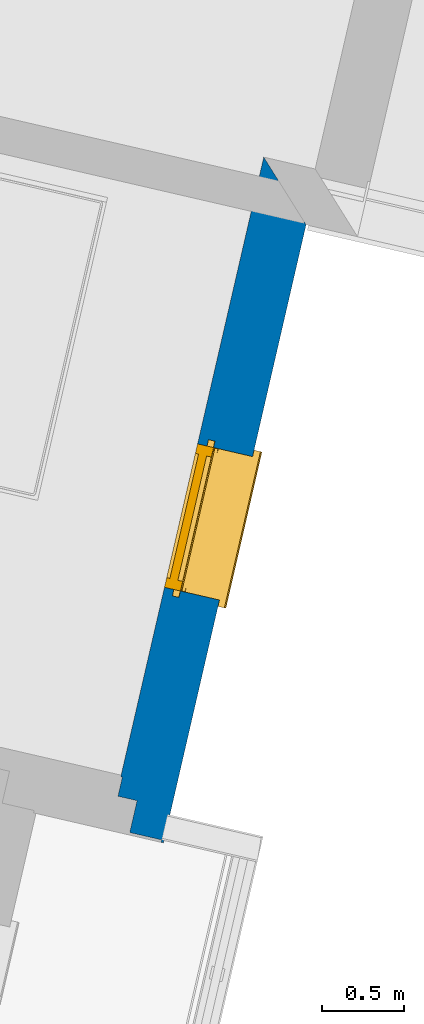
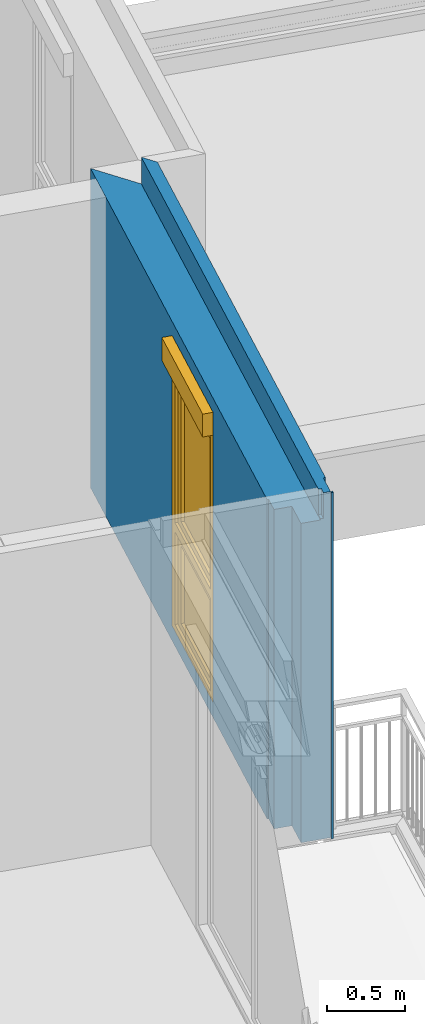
# One storey, part 21 of 90: 1 wall, 1 window, 1 opening.
"""IFC2X3 building model written with IfcOpenShell, lengths in metres."""

from ifc_helpers import new_model, entity, si_unit, converted_unit, derived_unit, money_unit, direction, frame, origin_with_axes, place, context, subcontext, project, spatial, open_shell, faceted_brep, surface_model, source, transform, mapped, material, material_list, type_object, element, fill, save


model = new_model("IFC2X3")

# Units and contexts
model_context = context("Model", 3, precision=1e-05, world=origin_with_axes(), true_north=direction((0.0, 1.0)))
body_context = subcontext(model_context, "Body", "Model", "MODEL_VIEW")
ifc_project = project(units=[si_unit("LENGTHUNIT", "METRE"), si_unit("AREAUNIT", "SQUARE_METRE"), si_unit("VOLUMEUNIT", "CUBIC_METRE"), converted_unit("PLANEANGLEUNIT", "DEGREE", entity("IfcPlaneAngleMeasure", 0.0174532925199), si_unit("PLANEANGLEUNIT", "RADIAN"), dimensions=[0, 0, 0, 0, 0, 0, 0]), si_unit("SOLIDANGLEUNIT", "STERADIAN"), money_unit("EUR"), converted_unit("TIMEUNIT", "Year", entity("IfcTimeMeasure", 31556926.0), si_unit("TIMEUNIT", "SECOND"), dimensions=[0, 0, 1, 0, 0, 0, 0]), si_unit("MASSUNIT", "GRAM", prefix="KILO"), si_unit("THERMODYNAMICTEMPERATUREUNIT", "DEGREE_CELSIUS"), si_unit("LUMINOUSINTENSITYUNIT", "LUMEN"), si_unit("ENERGYUNIT", "JOULE", prefix="MEGA"), derived_unit("THERMALCONDUCTANCEUNIT", [(si_unit("POWERUNIT", "WATT"), 1), (si_unit("LENGTHUNIT", "METRE"), -1), (si_unit("THERMODYNAMICTEMPERATUREUNIT", "KELVIN"), -1)]), derived_unit("SPECIFICHEATCAPACITYUNIT", [(si_unit("ENERGYUNIT", "JOULE"), 1), (si_unit("MASSUNIT", "GRAM", prefix="KILO"), -1), (si_unit("THERMODYNAMICTEMPERATUREUNIT", "KELVIN"), -1)]), derived_unit("MASSDENSITYUNIT", [(si_unit("MASSUNIT", "GRAM", prefix="KILO"), 1), (si_unit("VOLUMEUNIT", "CUBIC_METRE"), -1)])], contexts=[model_context])

# Site, building, storey
site_placement = place(None, origin_with_axes())
site = spatial("IfcSite", under=ifc_project, at=site_placement, Name="Site", CompositionType="ELEMENT")
building_placement = place(site_placement, origin_with_axes())
building = spatial("IfcBuilding", under=site, at=building_placement, Name="Bâtiment", CompositionType="ELEMENT")
storey_placement = place(building_placement, frame((0.0, 0.0, 2.72), z_axis=(0.0, 0.0, 1.0), x_axis=(1.0, 0.0, 0.0)))
storey = spatial("IfcBuildingStorey", under=building, at=storey_placement, Name="R+1", CompositionType="ELEMENT", Elevation=2.72)

# Wall, opening, window
ifc_material_1 = material(Name="Finition ext - Crépis")
ifc_material_2 = material(Name="Béton cellulaire")
ifc_material_3 = material(Name="Mortier")
ifc_material_4 = material(Name="Isolation - Polystyrène expansé")
ifc_material_5 = material(Name="Bloc ELITHERM")
ifc_material_6 = material(Name="Isolation - Polystyrène extrudé")
ifc_material_7 = material(Name="Finition int - Plaque de plâtre")
ifc_material_list = material_list([ifc_material_1, ifc_material_2, ifc_material_3, ifc_material_4, ifc_material_5, ifc_material_6, ifc_material_7])
wall_type = type_object("IfcWallType", Name="Mur ALKERN + planelle 21 345 x 2720", PredefinedType="USERDEFINED")
wall_placement = place(storey_placement, frame((-5.36567437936, -10.3303941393, 0.0), z_axis=(0.0, 0.0, 1.0), x_axis=(-0.224876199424, -0.974387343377, 0.0)))
wall = element("IfcWall", 1, at=wall_placement, inside=storey, type_object=wall_type, material=ifc_material_list, Name="Mue bloc ALKERN isolé", ObjectType="SOLIDWALL", context=body_context, shape_type="Brep", body=[
    faceted_brep([(1.4538266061, -0.0149999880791, 0.12), (1.4538266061, -7.00355284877e-09, 0.12), (1.4538266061, -7.00355329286e-09, 2.22), (1.4538266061, -0.0149999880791, 2.22), (1.4538266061, -7.00355284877e-09, 0.06), (1.4538266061, -0.0149999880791, 0.06), (3.86232660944, 0.0, 0.0), (3.85234608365, -7.00355329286e-09, 0.0106237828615), (3.71230713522, -7.00355329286e-09, 0.0193762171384), (3.70232660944, -7.00355284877e-09, 0.01), (3.70232660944, -3.16101367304e-10, 0.0), (-7.00355506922e-09, -7.00355240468e-09, 0.0), (-7.00355506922e-09, -7.00355240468e-09, 2.72), (3.70232660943, -3.16100923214e-10, 2.72), (3.70232660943, -7.00355329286e-09, 2.51999999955), (3.70232660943, -7.00355329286e-09, 2.50999999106), (3.70232660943, -7.00355329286e-09, 2.50872065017), (3.70232660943, -7.00355329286e-09, 2.5), (3.71732660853, -7.00355284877e-09, 2.5), (3.73706759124, -7.00355284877e-09, 2.5), (3.86232660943, -7.00355240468e-09, 2.5), (3.86232660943, -7.00355240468e-09, 2.50872065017), (3.86232660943, -7.00355240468e-09, 2.50999999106), (3.86232660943, -7.00355240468e-09, 2.51999999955), (3.86232660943, 0.0, 2.72), (3.87732660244, 0.0, 2.72), (3.87732660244, 0.0, 0.0), (2.3538266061, -7.00355284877e-09, 0.06), (2.3538266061, -7.00355284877e-09, 0.12), (2.3538266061, -7.00355329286e-09, 2.22), (2.3538266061, -0.0149999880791, 2.22), (3.86232660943, -0.0149999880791, 2.50872065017), (3.86232660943, -0.0149999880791, 2.5), (3.73706759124, -0.0149999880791, 2.5), (3.71732660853, -0.0149999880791, 2.5), (3.70232660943, -0.0149999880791, 2.5), (3.70232660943, -0.0149999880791, 2.50872065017), (3.70232660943, -0.0149999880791, 2.50999999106), (3.70232660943, -0.0149999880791, 2.51999999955), (3.70232660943, -0.0149999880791, 2.72), (-0.0149999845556, -0.0149999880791, 2.72), (-0.0149999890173, -0.0149999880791, 0.0), (3.70232660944, -0.01499998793, 0.0), (3.70232660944, -0.01499998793, 0.01), (3.71230713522, -0.0149999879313, 0.0193762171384), (3.85234608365, -0.0149999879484, 0.0106237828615), (3.86232660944, -0.0149999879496, 0.0), (3.87732660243, -0.0149999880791, 0.0), (3.87732660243, -0.0149999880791, 2.72), (3.86232660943, -0.0149999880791, 2.72), (3.86232660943, -0.0149999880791, 2.51999999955), (3.86232660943, -0.0149999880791, 2.50999999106), (2.3538266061, -0.0149999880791, 0.12), (2.3538266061, -0.0149999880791, 0.06)], [[[0, 1, 2, 3]], [[4, 1, 0, 5]], [[6, 7, 8, 9, 10, 11, 12, 13, 14, 15, 16, 17, 18, 19, 20, 21, 22, 23, 24, 25, 26], [27, 28, 29, 2, 1, 4]], [[29, 30, 3, 2]], [[31, 32, 33, 34, 35, 36, 37, 38, 39, 40, 41, 42, 43, 44, 45, 46, 47, 48, 49, 50, 51], [5, 0, 3, 30, 52, 53]], [[27, 4, 5, 53]], [[6, 46, 45, 7]], [[7, 45, 44, 8]], [[8, 44, 43, 9]], [[9, 43, 42, 10]], [[42, 41, 11, 10]], [[40, 12, 11, 41]], [[13, 12, 40, 39]], [[13, 39, 38, 14]], [[38, 37, 15, 14]], [[37, 36, 16, 15]], [[36, 35, 17, 16]], [[18, 17, 35, 34]], [[19, 18, 34, 33]], [[19, 33, 32, 20]], [[21, 20, 32, 31]], [[22, 21, 31, 51]], [[23, 22, 51, 50]], [[24, 23, 50, 49]], [[49, 48, 25, 24]], [[26, 25, 48, 47]], [[6, 26, 47, 46]], [[52, 28, 27, 53]], [[28, 52, 30, 29]]]),
    faceted_brep([(3.86232662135, -0.0629999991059, 2.71999999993), (3.86232662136, -0.015, 2.71999999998), (-0.0149999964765, -0.015, 2.72), (-0.0629999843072, -0.0629999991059, 2.72), (3.86232662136, -0.015, 2.51999999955), (3.86232662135, -0.0629999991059, 2.51999999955), (-0.0150000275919, -0.015, 2.52000002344), (-0.0630000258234, -0.0629999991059, 2.52000002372)], [[[0, 1, 2, 3]], [[4, 1, 0, 5]], [[1, 4, 6, 2]], [[7, 3, 2, 6]], [[5, 0, 3, 7]], [[4, 5, 7, 6]]]),
    faceted_brep([(3.86232662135, -0.0829999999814, 2.51999999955), (3.86232662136, -0.015, 2.51999999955), (-0.0150000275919, -0.015, 2.52000002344), (-0.0829999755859, -0.0829999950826, 2.52000002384), (3.86232662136, -0.015, 2.50999999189), (3.86232662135, -0.0829999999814, 2.50999999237), (-0.0150000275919, -0.015, 2.51000000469), (-0.0830000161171, -0.0829999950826, 2.51000000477)], [[[0, 1, 2, 3]], [[4, 1, 0, 5]], [[1, 4, 6, 2]], [[7, 3, 2, 6]], [[5, 0, 3, 7]], [[4, 5, 7, 6]]]),
    faceted_brep([(-0.0829999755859, -0.0829999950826, 2.72), (3.81432661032, -0.0830000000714, 2.7199999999), (3.81432661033, -0.0630000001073, 2.71999999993), (-0.0629999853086, -0.0630000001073, 2.72), (-0.0829999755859, -0.0829999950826, 2.52000002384), (3.81432661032, -0.0830000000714, 2.51999999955), (3.81432661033, -0.0630000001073, 2.51999999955), (-0.0630000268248, -0.0630000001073, 2.52000002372)], [[[0, 1, 2, 3]], [[4, 5, 1, 0]], [[5, 6, 2, 1]], [[3, 2, 6, 7]], [[7, 4, 0, 3]], [[7, 6, 5, 4]]]),
    faceted_brep([(1.4538266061, -0.214999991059, 0.12), (1.4538266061, -0.214999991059, 0.06), (1.4538266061, -0.015, 0.06), (1.4538266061, -0.015, 0.12), (1.4538266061, -0.015, 2.22), (1.4538266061, -0.214999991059, 2.22), (-0.215000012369, -0.214999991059, 2.51000000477), (-0.215000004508, -0.214999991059, 0.0), (3.86232662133, -0.214999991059, 0.0), (3.86232662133, -0.214999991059, 2.50999999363), (2.3538266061, -0.214999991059, 2.22), (2.3538266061, -0.214999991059, 0.12), (2.3538266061, -0.214999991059, 0.06), (2.3538266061, -0.015, 0.06), (-0.0150000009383, -0.015, 0.0), (-0.0150000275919, -0.015, 2.51000000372), (3.86232662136, -0.015, 2.50999999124), (3.86232662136, -0.015, 0.0), (2.3538266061, -0.015, 0.12), (2.3538266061, -0.015, 2.22), (-0.0830000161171, -0.0829999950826, 2.51000000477), (3.86232662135, -0.0829999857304, 2.50999999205)], [[[0, 1, 2, 3, 4, 5]], [[6, 7, 8, 9], [1, 0, 5, 10, 11, 12]], [[13, 2, 1, 12]], [[14, 15, 16, 17], [13, 18, 19, 4, 3, 2]], [[19, 10, 5, 4]], [[7, 6, 20, 15, 14]], [[7, 14, 17, 8]], [[8, 17, 16, 21, 9]], [[20, 6, 9, 21]], [[18, 13, 12, 11, 10, 19]], [[15, 20, 21, 16]]]),
    faceted_brep([(1.4538266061, -0.286, 0.12), (1.4538266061, -0.286, 0.06), (1.4538266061, -0.215000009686, 0.06), (1.4538266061, -0.215000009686, 0.12), (1.4538266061, -0.215, 2.22), (1.4538266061, -0.215, 2.4), (1.4538266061, -0.335000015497, 2.4), (1.4538266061, -0.335000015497, 2.22), (1.4538266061, -0.335000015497, 0.12), (2.3538266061, -0.286, 0.12), (2.3538266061, -0.286, 0.06), (2.3538266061, -0.215000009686, 0.06), (-0.215000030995, -0.215000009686, 2.51000000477), (3.66232661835, -0.215000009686, 2.50999999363), (3.66232661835, -0.215000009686, 0.0), (-0.215000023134, -0.215000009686, 0.0), (2.3538266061, -0.215000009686, 0.12), (2.3538266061, -0.215, 2.22), (2.3538266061, -0.215, 2.4), (2.3538266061, -0.335000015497, 2.4), (-0.335000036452, -0.335000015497, 0.0), (3.66232661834, -0.335000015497, 0.0), (3.66232661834, -0.335000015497, 2.50999999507), (-0.335000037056, -0.335000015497, 2.51000000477), (2.3538266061, -0.335000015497, 2.22), (2.3538266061, -0.335000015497, 0.12)], [[[0, 1, 2, 3, 4, 5, 6, 7, 8]], [[0, 9, 10, 1]], [[11, 2, 1, 10]], [[12, 13, 14, 15], [11, 16, 17, 18, 5, 4, 3, 2]], [[18, 19, 6, 5]], [[20, 21, 22, 23], [8, 7, 6, 19, 24, 25]], [[9, 0, 8, 25]], [[16, 11, 10, 9, 25, 24, 19, 18, 17]], [[23, 22, 13, 12]], [[21, 14, 13, 22]], [[15, 14, 21, 20]], [[15, 20, 23, 12]]]),
    faceted_brep([(3.5423265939, -0.335000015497, 0.0), (-0.335000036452, -0.335000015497, 0.0), (-0.335000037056, -0.335000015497, 2.51000000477), (3.5423265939, -0.335000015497, 2.5100000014), (2.3538266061, -0.335000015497, 2.22), (2.3538266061, -0.335000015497, 2.4), (1.4538266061, -0.335000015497, 2.4), (1.4538266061, -0.335000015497, 2.22), (1.4538266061, -0.335000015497, 0.12), (2.3538266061, -0.335000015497, 0.12), (3.5423265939, -0.344999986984, 0.0), (-0.344999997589, -0.344999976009, 0.0), (-0.344999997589, -0.344999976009, 2.51000000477), (3.5423265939, -0.344999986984, 2.51000000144), (2.3538266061, -0.344999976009, 2.22), (2.3538266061, -0.344999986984, 2.4), (2.3538266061, -0.344999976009, 0.12), (1.4538266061, -0.344999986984, 2.4), (1.4538266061, -0.344999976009, 2.22), (1.4538266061, -0.344999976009, 0.12)], [[[0, 1, 2, 3], [4, 5, 6, 7, 8, 9]], [[10, 11, 1, 0]], [[12, 2, 1, 11]], [[3, 2, 12, 13]], [[3, 13, 10, 0]], [[14, 15, 5, 4, 9, 16]], [[6, 5, 15, 17]], [[7, 6, 17, 18, 19, 8]], [[8, 19, 16, 9]], [[13, 12, 11, 10], [15, 14, 16, 19, 18, 17]]]),
])
opening_placement = place(wall_placement, frame((1.9038266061, 0.0, 0.12), z_axis=(0.0, 0.0, 1.0), x_axis=(1.0, 0.0, 0.0)))
opening = element("IfcOpeningElement", 2, at=opening_placement, cuts=wall, Name="MEN 63", context=body_context, shape_type="Brep", body=[
    faceted_brep([(-0.45, -0.245, 0.0), (0.45, -0.245, 0.0), (0.45, -0.83499998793, 0.0), (-0.45, -0.83499998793, 0.0), (-0.45, -0.245, 2.1), (0.45, -0.245, 2.1), (0.45, -0.83499998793, 2.1), (-0.45, -0.83499998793, 2.1)], [[[0, 1, 2, 3]], [[0, 4, 5, 1]], [[1, 5, 6, 2]], [[3, 2, 6, 7]], [[4, 0, 3, 7]], [[5, 4, 7, 6]]]),
    faceted_brep([(-0.45, -0.245, 0.0), (-0.45, -0.245, 2.1), (-0.45, 0.34499998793, 2.1), (-0.45, 0.34499998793, 0.0), (0.45, -0.245, 0.0), (0.45, -0.245, 2.1), (0.45, 0.34499998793, 2.1), (0.45, 0.34499998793, 0.0)], [[[0, 1, 2, 3]], [[0, 4, 5, 1]], [[1, 5, 6, 2]], [[3, 2, 6, 7]], [[4, 0, 3, 7]], [[5, 4, 7, 6]]]),
    faceted_brep([(-0.45, -0.245, 0.0), (-0.45, -0.245, 2.1), (-0.45, 0.34499998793, 2.1), (-0.45, 0.34499998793, 0.0), (0.45, -0.245, 0.0), (0.45, -0.245, 2.1), (0.45, 0.34499998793, 2.1), (0.45, 0.34499998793, 0.0)], [[[0, 1, 2, 3]], [[0, 4, 5, 1]], [[1, 5, 6, 2]], [[3, 2, 6, 7]], [[4, 0, 3, 7]], [[5, 4, 7, 6]]]),
    faceted_brep([(-0.45, -0.215, 2.1), (0.45, -0.215, 2.1), (0.45, -0.80499998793, 2.1), (-0.45, -0.80499998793, 2.1), (-0.45, -0.215, 2.28), (0.45, -0.215, 2.28), (0.45, -0.80499998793, 2.28), (-0.45, -0.80499998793, 2.28)], [[[0, 1, 2, 3]], [[0, 4, 5, 1]], [[1, 5, 6, 2]], [[3, 2, 6, 7]], [[4, 0, 3, 7]], [[5, 4, 7, 6]]]),
    faceted_brep([(-0.45, -0.286, 0.0), (0.45, -0.286, 0.0), (0.45, 0.30399998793, 0.0), (-0.45, 0.30399998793, 0.0), (-0.45, -0.286, -0.06), (0.45, -0.286, -0.06), (0.45, 0.30399998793, -0.06), (-0.45, 0.30399998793, -0.06)], [[[0, 1, 2, 3]], [[0, 4, 5, 1]], [[1, 5, 6, 2]], [[3, 2, 6, 7]], [[4, 0, 3, 7]], [[5, 4, 7, 6]]]),
])
window_style = type_object("IfcWindowStyle", Name="Baie générique 2017 v2", ConstructionType="NOTDEFINED", OperationType="NOTDEFINED", ParameterTakesPrecedence=False, Sizeable=False)
shared_shape = source(origin_with_axes(), body_context, "Body", "SurfaceModel", [
    faceted_brep([(0.45, 0.0, 2.1), (-0.45, 0.0, 2.1), (-0.45, 0.0, 0.0), (0.45, 0.0, 0.0), (-0.39, 0.0, 0.85), (-0.39, 0.0, 2.05), (0.39, 0.0, 2.05), (0.39, 0.0, 0.85), (-0.39, 0.0, 0.78), (0.39, 0.0, 0.78), (0.39, 0.0, 0.05), (-0.39, 0.0, 0.05), (0.45, 0.1, 2.1), (-0.45, 0.1, 2.1), (-0.45, 0.1, 0.0), (0.45, 0.1, 0.0), (-0.39, 0.1, 0.85), (-0.39, 0.1, 2.05), (0.39, 0.1, 2.05), (0.39, 0.1, 0.85), (-0.39, 0.1, 0.78), (0.39, 0.1, 0.78), (0.39, 0.1, 0.05), (-0.39, 0.1, 0.05)], [[[0, 1, 2, 3], [4, 5, 6, 7], [8, 9, 10, 11]], [[1, 0, 12, 13]], [[2, 1, 13, 14]], [[3, 2, 14, 15]], [[0, 3, 15, 12]], [[16, 17, 5, 4]], [[6, 5, 17, 18]], [[7, 6, 18, 19]], [[4, 7, 19, 16]], [[20, 21, 9, 8]], [[21, 22, 10, 9]], [[11, 10, 22, 23]], [[8, 11, 23, 20]], [[14, 13, 12, 15], [16, 19, 18, 17], [20, 23, 22, 21]]]),
    faceted_brep([(-0.39, 0.08, 2.05), (0.39, 0.08, 2.05), (0.39, 0.08, 0.85), (-0.39, 0.08, 0.85), (-0.32, 0.08, 1.98), (-0.32, 0.08, 0.9), (0.32, 0.08, 0.9), (0.32, 0.08, 1.98), (-0.39, 0.03, 2.05), (0.39, 0.03, 2.05), (0.39, 0.03, 0.85), (-0.39, 0.03, 0.85), (-0.32, 0.03, 1.98), (-0.32, 0.03, 0.9), (0.32, 0.03, 0.9), (0.32, 0.03, 1.98)], [[[0, 1, 2, 3], [4, 5, 6, 7]], [[0, 8, 9, 1]], [[9, 10, 2, 1]], [[10, 11, 3, 2]], [[3, 11, 8, 0]], [[4, 12, 13, 5]], [[13, 14, 6, 5]], [[14, 15, 7, 6]], [[7, 15, 12, 4]], [[9, 8, 11, 10], [13, 12, 15, 14]]]),
    surface_model("IfcShellBasedSurfaceModel", [(0.39, 0.08, 0.85), (0.39, 0.08, 2.05), (0.39, 0.055, 2.05), (0.39, 0.055, 0.85)], [open_shell([[[0, 1, 2, 3]]])]),
    surface_model("IfcShellBasedSurfaceModel", [(-0.39, 0.08, 0.85), (-0.39, 0.08, 2.05), (-0.39, 0.055, 2.05), (-0.39, 0.055, 0.85)], [open_shell([[[0, 1, 2, 3]]])]),
    surface_model("IfcShellBasedSurfaceModel", [(0.39, 0.08, 0.85), (-0.39, 0.08, 0.85), (-0.39, 0.055, 0.85), (0.39, 0.055, 0.85)], [open_shell([[[0, 1, 2, 3]]])]),
    surface_model("IfcShellBasedSurfaceModel", [(0.39, 0.08, 2.05), (-0.39, 0.08, 2.05), (-0.39, 0.055, 2.05), (0.39, 0.055, 2.05)], [open_shell([[[0, 1, 2, 3]]])]),
    surface_model("IfcShellBasedSurfaceModel", [(0.39, 0.055, 0.85), (0.39, 0.055, 2.05), (0.39, 0.03, 2.05), (0.39, 0.03, 0.85)], [open_shell([[[0, 1, 2, 3]]])]),
    surface_model("IfcShellBasedSurfaceModel", [(-0.39, 0.055, 0.85), (-0.39, 0.055, 2.05), (-0.39, 0.03, 2.05), (-0.39, 0.03, 0.85)], [open_shell([[[0, 1, 2, 3]]])]),
    surface_model("IfcShellBasedSurfaceModel", [(0.39, 0.055, 0.85), (-0.39, 0.055, 0.85), (-0.39, 0.03, 0.85), (0.39, 0.03, 0.85)], [open_shell([[[0, 1, 2, 3]]])]),
    surface_model("IfcShellBasedSurfaceModel", [(0.39, 0.055, 2.05), (-0.39, 0.055, 2.05), (-0.39, 0.03, 2.05), (0.39, 0.03, 2.05)], [open_shell([[[0, 1, 2, 3]]])]),
    faceted_brep([(0.32, 0.0575, 0.9), (0.32, 0.0525, 0.9), (-0.32, 0.0525, 0.9), (-0.32, 0.0575, 0.9), (0.32, 0.0575, 1.98), (0.32, 0.0525, 1.98), (-0.32, 0.0525, 1.98), (-0.32, 0.0575, 1.98)], [[[0, 1, 2, 3]], [[4, 5, 1, 0]], [[1, 5, 6, 2]], [[3, 2, 6, 7]], [[0, 3, 7, 4]], [[7, 6, 5, 4]]]),
    faceted_brep([(-0.39, 0.08, 0.78), (0.39, 0.08, 0.78), (0.39, 0.08, 0.05), (-0.39, 0.08, 0.05), (-0.32, 0.08, 0.71), (-0.32, 0.08, 0.1), (0.32, 0.08, 0.1), (0.32, 0.08, 0.71), (-0.39, 0.03, 0.78), (0.39, 0.03, 0.78), (0.39, 0.03, 0.05), (-0.39, 0.03, 0.05), (-0.32, 0.03, 0.71), (-0.32, 0.03, 0.1), (0.32, 0.03, 0.1), (0.32, 0.03, 0.71)], [[[0, 1, 2, 3], [4, 5, 6, 7]], [[0, 8, 9, 1]], [[9, 10, 2, 1]], [[10, 11, 3, 2]], [[3, 11, 8, 0]], [[4, 12, 13, 5]], [[13, 14, 6, 5]], [[14, 15, 7, 6]], [[7, 15, 12, 4]], [[9, 8, 11, 10], [13, 12, 15, 14]]]),
    surface_model("IfcShellBasedSurfaceModel", [(0.39, 0.08, 0.05), (0.39, 0.08, 0.78), (0.39, 0.055, 0.78), (0.39, 0.055, 0.05)], [open_shell([[[0, 1, 2, 3]]])]),
    surface_model("IfcShellBasedSurfaceModel", [(-0.39, 0.08, 0.05), (-0.39, 0.08, 0.78), (-0.39, 0.055, 0.78), (-0.39, 0.055, 0.05)], [open_shell([[[0, 1, 2, 3]]])]),
    surface_model("IfcShellBasedSurfaceModel", [(0.39, 0.08, 0.05), (-0.39, 0.08, 0.05), (-0.39, 0.055, 0.05), (0.39, 0.055, 0.05)], [open_shell([[[0, 1, 2, 3]]])]),
    surface_model("IfcShellBasedSurfaceModel", [(0.39, 0.08, 0.78), (-0.39, 0.08, 0.78), (-0.39, 0.055, 0.78), (0.39, 0.055, 0.78)], [open_shell([[[0, 1, 2, 3]]])]),
    surface_model("IfcShellBasedSurfaceModel", [(0.39, 0.055, 0.05), (0.39, 0.055, 0.78), (0.39, 0.03, 0.78), (0.39, 0.03, 0.05)], [open_shell([[[0, 1, 2, 3]]])]),
    surface_model("IfcShellBasedSurfaceModel", [(-0.39, 0.055, 0.05), (-0.39, 0.055, 0.78), (-0.39, 0.03, 0.78), (-0.39, 0.03, 0.05)], [open_shell([[[0, 1, 2, 3]]])]),
    surface_model("IfcShellBasedSurfaceModel", [(0.39, 0.055, 0.05), (-0.39, 0.055, 0.05), (-0.39, 0.03, 0.05), (0.39, 0.03, 0.05)], [open_shell([[[0, 1, 2, 3]]])]),
    surface_model("IfcShellBasedSurfaceModel", [(0.39, 0.055, 0.78), (-0.39, 0.055, 0.78), (-0.39, 0.03, 0.78), (0.39, 0.03, 0.78)], [open_shell([[[0, 1, 2, 3]]])]),
    faceted_brep([(0.32, 0.0575, 0.1), (0.32, 0.0525, 0.1), (-0.32, 0.0525, 0.1), (-0.32, 0.0575, 0.1), (0.32, 0.0575, 0.71), (0.32, 0.0525, 0.71), (-0.32, 0.0525, 0.71), (-0.32, 0.0575, 0.71)], [[[0, 1, 2, 3]], [[4, 5, 1, 0]], [[1, 5, 6, 2]], [[3, 2, 6, 7]], [[0, 3, 7, 4]], [[7, 6, 5, 4]]]),
    faceted_brep([(0.45, -0.03, 0.0), (0.45, -0.03, 2.1), (0.425, -0.03, 2.1), (0.425, -0.03, 0.0), (0.45, -0.002, 0.0), (0.45, -0.002, 2.1), (0.425, -0.002, 2.1), (0.425, -0.004, 2.1), (0.448, -0.004, 2.1), (0.448, -0.028, 2.1), (0.425, -0.028, 2.1), (0.425, -0.028, 0.0), (0.448, -0.028, 0.0), (0.448, -0.004, 0.0), (0.425, -0.004, 0.0), (0.425, -0.002, 0.0)], [[[0, 1, 2, 3]], [[4, 5, 1, 0]], [[1, 5, 6, 7, 8, 9, 10, 2]], [[3, 2, 10, 11]], [[0, 3, 11, 12, 13, 14, 15, 4]], [[15, 6, 5, 4]], [[14, 7, 6, 15]], [[13, 8, 7, 14]], [[12, 9, 8, 13]], [[11, 10, 9, 12]]]),
    faceted_brep([(-0.45, -0.03, 0.0), (-0.425, -0.03, 0.0), (-0.425, -0.03, 2.1), (-0.45, -0.03, 2.1), (-0.45, -0.002, 0.0), (-0.425, -0.002, 0.0), (-0.425, -0.004, 0.0), (-0.448, -0.004, 0.0), (-0.448, -0.028, 0.0), (-0.425, -0.028, 0.0), (-0.425, -0.028, 2.1), (-0.448, -0.028, 2.1), (-0.448, -0.004, 2.1), (-0.425, -0.004, 2.1), (-0.425, -0.002, 2.1), (-0.45, -0.002, 2.1)], [[[0, 1, 2, 3]], [[0, 4, 5, 6, 7, 8, 9, 1]], [[1, 9, 10, 2]], [[3, 2, 10, 11, 12, 13, 14, 15]], [[4, 0, 3, 15]], [[5, 4, 15, 14]], [[6, 5, 14, 13]], [[7, 6, 13, 12]], [[8, 7, 12, 11]], [[9, 8, 11, 10]]]),
    faceted_brep([(-0.448, -0.028, 2.1), (-0.448, -0.028, 2.278), (0.448, -0.028, 2.278), (0.448, -0.028, 2.1), (-0.448, -0.03, 2.1), (-0.448, -0.03, 2.28), (-0.448, 0.17, 2.28), (-0.448, 0.17, 2.1), (-0.448, 0.168, 2.1), (-0.448, 0.168, 2.278), (0.448, 0.168, 2.278), (0.448, 0.168, 2.1), (0.448, 0.17, 2.1), (0.448, 0.17, 2.28), (0.448, -0.03, 2.28), (0.448, -0.03, 2.1)], [[[0, 1, 2, 3]], [[0, 4, 5, 6, 7, 8, 9, 1]], [[1, 9, 10, 2]], [[3, 2, 10, 11, 12, 13, 14, 15]], [[4, 0, 3, 15]], [[5, 4, 15, 14]], [[6, 5, 14, 13]], [[7, 6, 13, 12]], [[8, 7, 12, 11]], [[9, 8, 11, 10]]]),
    faceted_brep([(-0.448, 0.0724697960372, 2.17436337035), (-0.448, 0.0555495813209, 2.17050144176), (-0.448, 0.041980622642, 2.18132232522), (-0.448, 0.041980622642, 2.19867767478), (-0.448, 0.0555495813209, 2.20949855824), (-0.448, 0.0724697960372, 2.20563662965), (-0.448, 0.08, 2.19), (0.448, 0.0724697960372, 2.17436337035), (0.448, 0.0555495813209, 2.17050144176), (0.448, 0.041980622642, 2.18132232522), (0.448, 0.041980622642, 2.19867767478), (0.448, 0.0555495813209, 2.20949855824), (0.448, 0.0724697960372, 2.20563662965), (0.448, 0.08, 2.19)], [[[0, 1, 2, 3, 4, 5, 6]], [[1, 0, 7, 8]], [[2, 1, 8, 9]], [[3, 2, 9, 10]], [[4, 3, 10, 11]], [[5, 4, 11, 12]], [[6, 5, 12, 13]], [[0, 6, 13, 7]], [[7, 13, 12, 11, 10, 9, 8]]]),
    faceted_brep([(-0.438, 0.130275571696, 2.15615706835), (-0.438, 0.108632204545, 2.12901714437), (-0.438, 0.0773566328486, 2.11395562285), (-0.438, 0.0426433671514, 2.11395562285), (-0.438, 0.011367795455, 2.12901714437), (-0.438, -0.0102755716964, 2.15615706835), (-0.438, -0.018, 2.19), (-0.438, -0.0102755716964, 2.22384293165), (-0.438, 0.011367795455, 2.25098285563), (-0.438, 0.0426433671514, 2.26604437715), (-0.438, 0.0773566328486, 2.26604437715), (-0.438, 0.108632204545, 2.25098285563), (-0.438, 0.130275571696, 2.22384293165), (-0.438, 0.138, 2.19), (0.438, 0.130275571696, 2.15615706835), (0.438, 0.108632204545, 2.12901714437), (0.438, 0.0773566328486, 2.11395562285), (0.438, 0.0426433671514, 2.11395562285), (0.438, 0.011367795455, 2.12901714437), (0.438, -0.0102755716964, 2.15615706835), (0.438, -0.018, 2.19), (0.438, -0.0102755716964, 2.22384293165), (0.438, 0.011367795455, 2.25098285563), (0.438, 0.0426433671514, 2.26604437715), (0.438, 0.0773566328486, 2.26604437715), (0.438, 0.108632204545, 2.25098285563), (0.438, 0.130275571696, 2.22384293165), (0.438, 0.138, 2.19)], [[[0, 1, 2, 3, 4, 5, 6, 7, 8, 9, 10, 11, 12, 13]], [[1, 0, 14, 15]], [[2, 1, 15, 16]], [[3, 2, 16, 17]], [[4, 3, 17, 18]], [[5, 4, 18, 19]], [[6, 5, 19, 20]], [[7, 6, 20, 21]], [[8, 7, 21, 22]], [[9, 8, 22, 23]], [[10, 9, 23, 24]], [[11, 10, 24, 25]], [[12, 11, 25, 26]], [[13, 12, 26, 27]], [[0, 13, 27, 14]], [[14, 27, 26, 25, 24, 23, 22, 21, 20, 19, 18, 17, 16, 15]]]),
    faceted_brep([(-0.45, 0.17, 2.1), (-0.45, 0.17, 2.28), (-0.448, 0.17, 2.28), (-0.448, 0.17, 2.1), (-0.45, -0.03, 2.1), (-0.45, -0.03, 2.28), (-0.448, -0.03, 2.28), (-0.448, -0.03, 2.1)], [[[0, 1, 2, 3]], [[0, 4, 5, 1]], [[1, 5, 6, 2]], [[3, 2, 6, 7]], [[4, 0, 3, 7]], [[5, 4, 7, 6]]]),
    faceted_brep([(0.448, 0.17, 2.1), (0.448, 0.17, 2.28), (0.45, 0.17, 2.28), (0.45, 0.17, 2.1), (0.448, -0.03, 2.1), (0.448, -0.03, 2.28), (0.45, -0.03, 2.28), (0.45, -0.03, 2.1)], [[[0, 1, 2, 3]], [[0, 4, 5, 1]], [[1, 5, 6, 2]], [[3, 2, 6, 7]], [[4, 0, 3, 7]], [[5, 4, 7, 6]]]),
    faceted_brep([(-0.448, -0.004, 2.1), (-0.448, 0.168, 2.1), (0.448, 0.168, 2.1), (0.448, -0.004, 2.1), (-0.448, -0.004, 2.102), (-0.448, 0.168, 2.102), (0.448, 0.168, 2.102), (0.448, -0.004, 2.102)], [[[0, 1, 2, 3]], [[0, 4, 5, 1]], [[1, 5, 6, 2]], [[3, 2, 6, 7]], [[4, 0, 3, 7]], [[5, 4, 7, 6]]]),
    faceted_brep([(-0.438, -0.006, 2.1), (-0.438, -0.006, 2.19), (0.438, -0.006, 2.19), (0.438, -0.006, 2.1), (-0.438, -0.026, 2.1), (-0.438, -0.026, 2.19), (0.438, -0.026, 2.19), (0.438, -0.026, 2.1)], [[[0, 1, 2, 3]], [[1, 0, 4, 5]], [[2, 1, 5, 6]], [[3, 2, 6, 7]], [[4, 0, 3, 7]], [[5, 4, 7, 6]]]),
    faceted_brep([(-0.45, -0.00167949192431, -0.01), (0.45, -0.00167949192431, -0.01), (0.45, 0.0, -0.00373205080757), (0.49, 0.0, -0.00373205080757), (0.49, 0.001, 0.0), (-0.49, 0.001, 0.0), (-0.49, 0.0, -0.00373205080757), (-0.45, 0.0, -0.00373205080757), (-0.45, -0.009, -0.0173205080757), (0.45, -0.009, -0.0173205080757), (0.45, -0.245, -0.02), (0.45, -0.245, -0.06), (0.45, 0.0, -0.06), (0.45, -0.019, -0.02), (0.49, 0.0, -0.06), (0.49, 0.041, -0.06), (0.49, 0.041, 0.0), (-0.49, 0.041, 0.0), (-0.49, 0.041, -0.06), (-0.49, 0.0, -0.06), (-0.45, 0.0, -0.06), (-0.45, -0.245, -0.06), (-0.45, -0.245, -0.02), (-0.45, -0.019, -0.02), (0.49, -0.245, -0.02), (0.49, -0.245, -0.06), (0.49, -0.275, -0.06), (-0.49, -0.275, -0.06), (-0.49, -0.245, -0.06), (-0.49, -0.245, -0.02), (-0.49, -0.285, -0.02), (0.49, -0.285, -0.02), (0.49, -0.295, -0.03), (0.49, -0.295, -0.06), (0.49, -0.285, -0.06), (0.49, -0.285, -0.05), (0.49, -0.275, -0.05), (0.49, -0.292071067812, -0.0229289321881), (-0.49, -0.275, -0.05), (-0.49, -0.285, -0.05), (-0.49, -0.285, -0.06), (-0.49, -0.295, -0.06), (-0.49, -0.295, -0.03), (-0.49, -0.292071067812, -0.0229289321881)], [[[0, 1, 2, 3, 4, 5, 6, 7]], [[8, 9, 1, 0]], [[10, 11, 12, 2, 1, 9, 13]], [[3, 2, 12, 14]], [[4, 3, 14, 15, 16]], [[16, 17, 5, 4]], [[6, 5, 17, 18, 19]], [[19, 20, 7, 6]], [[7, 20, 21, 22, 23, 8, 0]], [[23, 13, 9, 8]], [[10, 24, 25, 11]], [[21, 20, 19, 18, 15, 14, 12, 11, 25, 26, 27, 28]], [[22, 29, 30, 31, 24, 10, 13, 23]], [[15, 18, 17, 16]], [[22, 21, 28, 29]], [[32, 33, 34, 35, 36, 26, 25, 24, 31, 37]], [[36, 38, 27, 26]], [[28, 27, 38, 39, 40, 41, 42, 43, 30, 29]], [[31, 30, 43, 37]], [[32, 42, 41, 33]], [[33, 41, 40, 34]], [[34, 40, 39, 35]], [[35, 39, 38, 36]], [[37, 43, 42, 32]]]),
])
window_placement = place(opening_placement, frame((0.45, 0.0, 0.0), z_axis=(0.0, 0.0, 1.0), x_axis=(-1.0, 0.0, 0.0)))
window = element("IfcWindow", 3, at=window_placement, inside=storey, type_object=window_style, Name="MEN 63", ObjectType="WINDOW", OverallHeight=2.1, OverallWidth=0.9, context=body_context, shape_type="MappedRepresentation", body=[
    mapped(shared_shape, transform((0.45, 0.245, 0.0))),
])
fill(opening, window)

save(model, "model.ifc")
